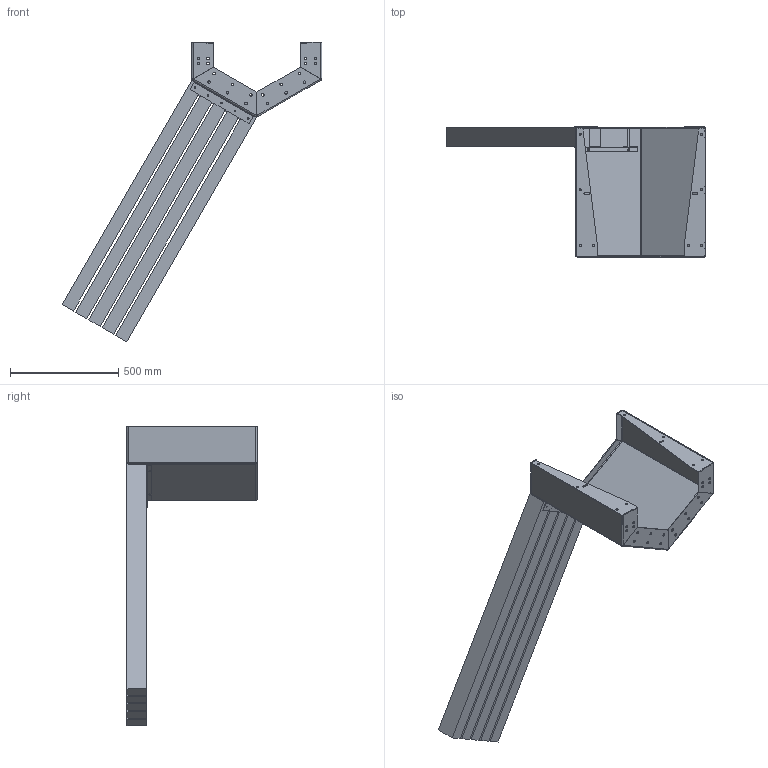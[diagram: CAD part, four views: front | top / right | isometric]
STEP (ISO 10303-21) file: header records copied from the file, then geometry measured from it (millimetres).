
FILE_DESCRIPTION (( 'STEP AP214' ), '1' );
FILE_NAME ('KI-0001-BU01.STEP', '2026-02-23T08:03:24', ( '' ), ( '' ), 'SwSTEP 2.0', 'SolidWorks 2025', '' );
FILE_SCHEMA (( 'AUTOMOTIVE_DESIGN' ));
Length unit declared in the file: millimetre
Products named in the file (5): RAVA BENCH; KI-0001-BU01; KI-0000-GS01; SHEET^KI-0001-BU01; Part2
Assembly tree (5 placements, depth 2):
  KI-0001-BU01
    SHEET^KI-0001-BU01
    KI-0000-GS01  x2
    RAVA BENCH
    Part2
Bounding box: 1198.43 x 600 x 1383.53 mm (x, y, z)
Volume: 34779023.7 mm3; surface area: 3533131 mm2
Topology: 9 solids, 9 shells, 330 faces, 808 edges, 496 vertices
Faces by surface type: plane 178, cylinder 140, bspline 12
Entity records: 9280 total; most frequent: CARTESIAN_POINT 2288, DIRECTION 1430, ORIENTED_EDGE 1364, EDGE_CURVE 682, AXIS2_PLACEMENT_3D 490, LINE 450, VECTOR 450, VERTEX_POINT 412
